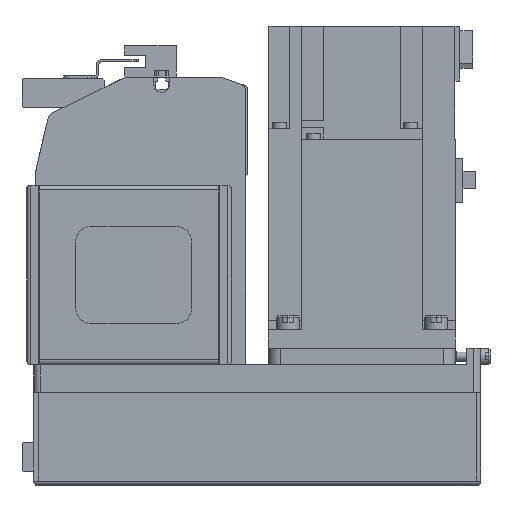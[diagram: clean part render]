
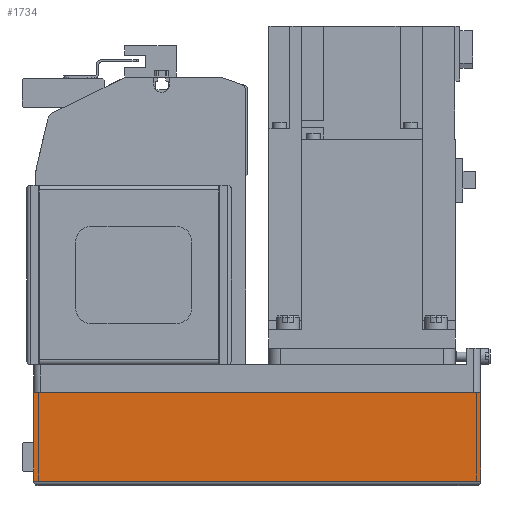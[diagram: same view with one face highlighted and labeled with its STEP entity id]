
A CAD part, left-side view. The second image highlights one B-rep face of the part: STEP entity #1734.
In plain terms, the highlighted planar face has unit normal (-1, 0, 0) as drawn and (0, 1, 0) by its records, which use the part's own axes.
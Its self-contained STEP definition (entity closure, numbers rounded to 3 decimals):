
#1734 = ADVANCED_FACE( '', ( #4145 ), #4146, .T. );
#4145 = FACE_OUTER_BOUND( '', #7391, .T. );
#4146 = PLANE( '', #7392 );
#7391 = EDGE_LOOP( '', ( #12355, #12356, #12357, #12358 ) );
#7392 = AXIS2_PLACEMENT_3D( '', #12359, #12360, #12361 );
#12355 = ORIENTED_EDGE( '', *, *, #20126, .F. );
#12356 = ORIENTED_EDGE( '', *, *, #20127, .F. );
#12357 = ORIENTED_EDGE( '', *, *, #20128, .T. );
#12358 = ORIENTED_EDGE( '', *, *, #19793, .T. );
#12359 = CARTESIAN_POINT( '', ( -192., 40., -50. ) );
#12360 = DIRECTION( '', ( 0., 1., 0. ) );
#12361 = DIRECTION( '', ( 0., 0., 1. ) );
#19793 = EDGE_CURVE( '', #24146, #22560, #24147, .T. );
#20126 = EDGE_CURVE( '', #24687, #22560, #24688, .T. );
#20127 = EDGE_CURVE( '', #24689, #24687, #24690, .T. );
#20128 = EDGE_CURVE( '', #24689, #24146, #24691, .T. );
#22560 = VERTEX_POINT( '', #27984 );
#24146 = VERTEX_POINT( '', #30340 );
#24147 = LINE( '', #30341, #30342 );
#24687 = VERTEX_POINT( '', #31094 );
#24688 = LINE( '', #31095, #31096 );
#24689 = VERTEX_POINT( '', #31097 );
#24690 = LINE( '', #31098, #31099 );
#24691 = LINE( '', #31100, #31101 );
#27984 = CARTESIAN_POINT( '', ( 0., 40., -12.1 ) );
#30340 = CARTESIAN_POINT( '', ( -192., 40., -12.1 ) );
#30341 = CARTESIAN_POINT( '', ( -192., 40., -12.1 ) );
#30342 = VECTOR( '', #36209, 1000. );
#31094 = CARTESIAN_POINT( '', ( 0., 40., -50. ) );
#31095 = CARTESIAN_POINT( '', ( 0., 40., -50. ) );
#31096 = VECTOR( '', #36703, 1000. );
#31097 = CARTESIAN_POINT( '', ( -192., 40., -50. ) );
#31098 = CARTESIAN_POINT( '', ( -192., 40., -50. ) );
#31099 = VECTOR( '', #36704, 1000. );
#31100 = CARTESIAN_POINT( '', ( -192., 40., -50. ) );
#31101 = VECTOR( '', #36705, 1000. );
#36209 = DIRECTION( '', ( 1., 0., 0. ) );
#36703 = DIRECTION( '', ( 0., 0., 1. ) );
#36704 = DIRECTION( '', ( 1., 0., 0. ) );
#36705 = DIRECTION( '', ( 0., 0., 1. ) );
